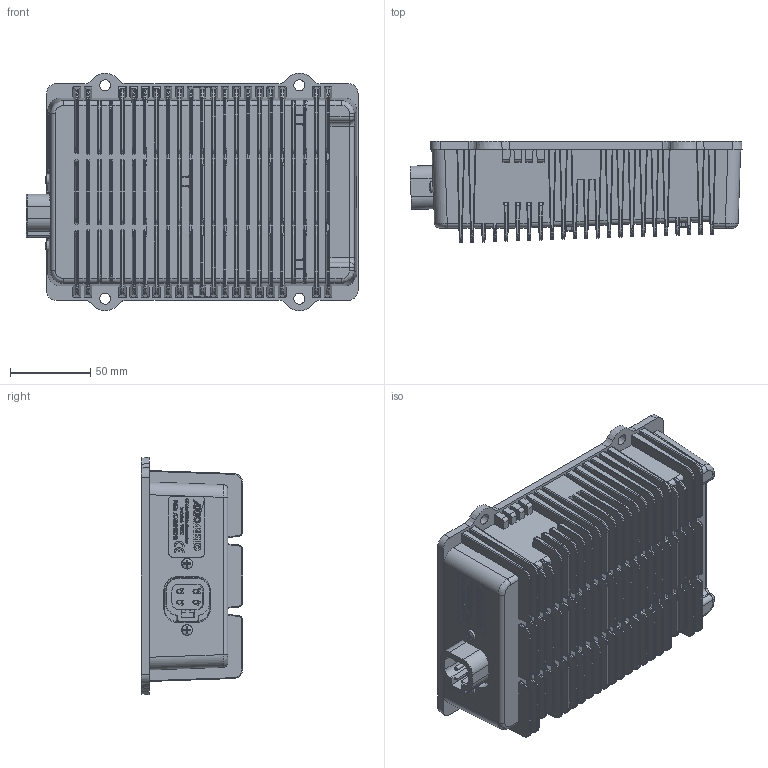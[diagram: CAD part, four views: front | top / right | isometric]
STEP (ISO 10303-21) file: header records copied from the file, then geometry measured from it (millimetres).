
FILE_DESCRIPTION(/* description */ (''),/* implementation_level */ '2;1');
FILE_NAME(/* name */ 'S:\Projects\PS-12-12-15A-I, AX081570, Proj_21104\UNIT ASSEMBLY\RELEASED\A\AX081570.stp',/* time_stamp */ '2025-10-15T21:42:13-04:00',/* author */ ('AutoDeskUser'),/* organization */ (''),/* preprocessor_version */ 'ST-DEVELOPER v18.1',/* originating_system */ 'Autodesk Inventor 2021',/* authorisation */ '');
FILE_SCHEMA (('CONFIG_CONTROL_DESIGN'));
Products named in the file (1): FG-AX081570 for STEP_Shrinkwrap_1
Bounding box: 206.82 x 63.25 x 147.93 mm (x, y, z)
Volume: 1257762.4 mm3; surface area: 152148.9 mm2
Topology: 1 solids, 1 shells, 3012 faces, 7747 edges, 4883 vertices
Faces by surface type: plane 1259, cylinder 857, bspline 792, cone 68, torus 32, sphere 4
Full cylindrical faces by diameter (mm): 2.388 x4, 8.9 x6
Entity records: 107512 total; most frequent: CARTESIAN_POINT 33691, ORIENTED_EDGE 15478, DIRECTION 13607, EDGE_CURVE 7739, VERTEX_POINT 4883, AXIS2_PLACEMENT_3D 4603, LINE 4401, VECTOR 4401
